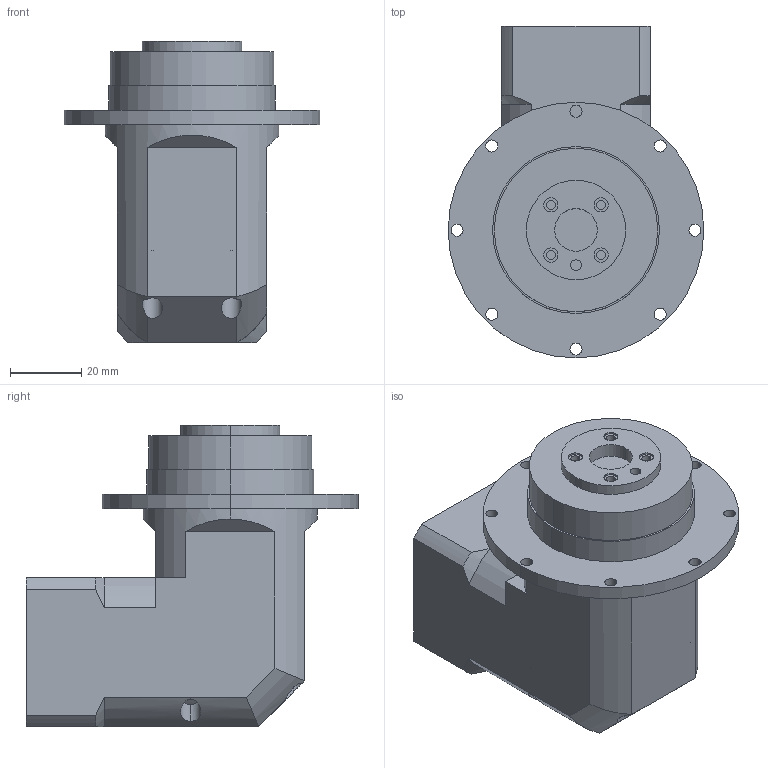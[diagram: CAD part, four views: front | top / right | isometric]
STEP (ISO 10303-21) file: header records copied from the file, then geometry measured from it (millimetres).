
FILE_DESCRIPTION (( 'STEP AP214' ), '1' );
FILE_NAME ('EVT047-L1-P1 8-30-46-M4.STEP', '2025-03-01T01:36:38', ( '微软用户' ), ( '微软中国' ), 'SwSTEP 2.0', 'SolidWorks 2021', '' );
FILE_SCHEMA (( 'AUTOMOTIVE_DESIGN' ));
Length unit declared in the file: millimetre
Products named in the file (1): EVT047-L1-P1 8-30-46-M4
Bounding box: 72 x 93.5 x 85 mm (x, y, z)
Volume: 200052.3 mm3; surface area: 30644.9 mm2
Topology: 1 solids, 11 shells, 180 faces, 402 edges, 260 vertices
Faces by surface type: cylinder 115, plane 54, cone 11
Entity records: 5485 total; most frequent: CARTESIAN_POINT 1398, DIRECTION 889, ORIENTED_EDGE 790, EDGE_CURVE 395, AXIS2_PLACEMENT_3D 369, VERTEX_POINT 260, EDGE_LOOP 219, CIRCLE 188
